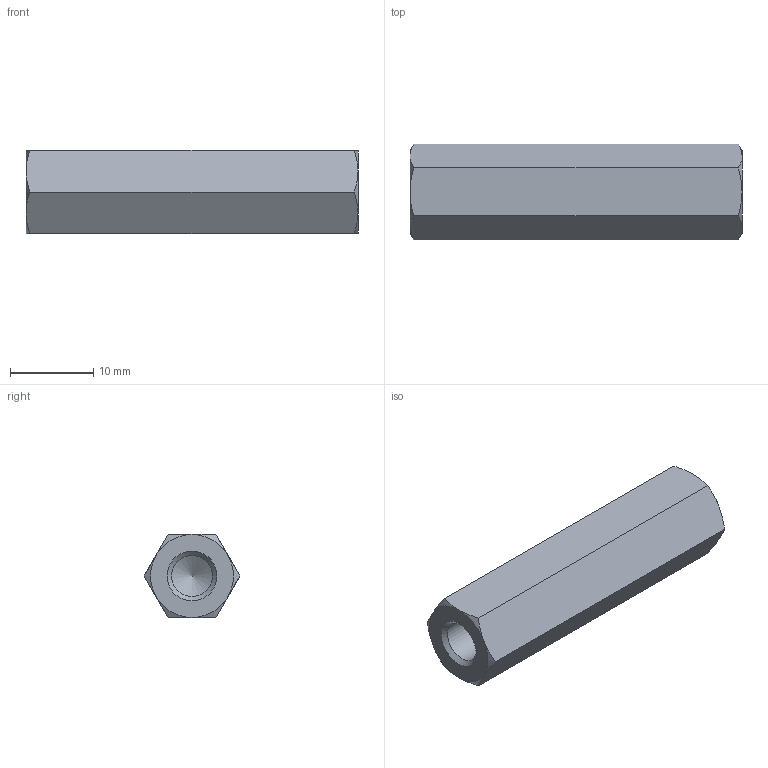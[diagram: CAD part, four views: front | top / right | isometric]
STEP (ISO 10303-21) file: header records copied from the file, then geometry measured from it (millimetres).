
FILE_DESCRIPTION( ( 'STEP AP203' ), '1' );
FILE_NAME( 'C:/Temp/Ganter_Step_05_03_2020/data/3_2/gn6220/gn6220_st/Spacer GN 6220-ST-M6-40-A.stp', '2020-03-13T05:42:30', ( 'License CC BY-ND 4.0' ), ( 'CADENAS' ), ' ', 'PARTsolutions', ' ' );
FILE_SCHEMA( ( 'CONFIG_CONTROL_DESIGN' ) );
Length unit declared in the file: millimetre
Products named in the file (1): _Spacer GN 6220-ST-M6-40-A
Bounding box: 40 x 11.55 x 10 mm (x, y, z)
Volume: 2789 mm3; surface area: 2076.3 mm2
Topology: 1 solids, 1 shells, 26 faces, 57 edges, 33 vertices
Faces by surface type: cone 16, plane 8, cylinder 2
Full cylindrical faces by diameter (mm): 4.917 x2
Entity records: 766 total; most frequent: CARTESIAN_POINT 227, DIRECTION 96, ORIENTED_EDGE 96, EDGE_CURVE 48, AXIS2_PLACEMENT_3D 45, EDGE_LOOP 32, VERTEX_POINT 32, FACE_OUTER_BOUND 28
